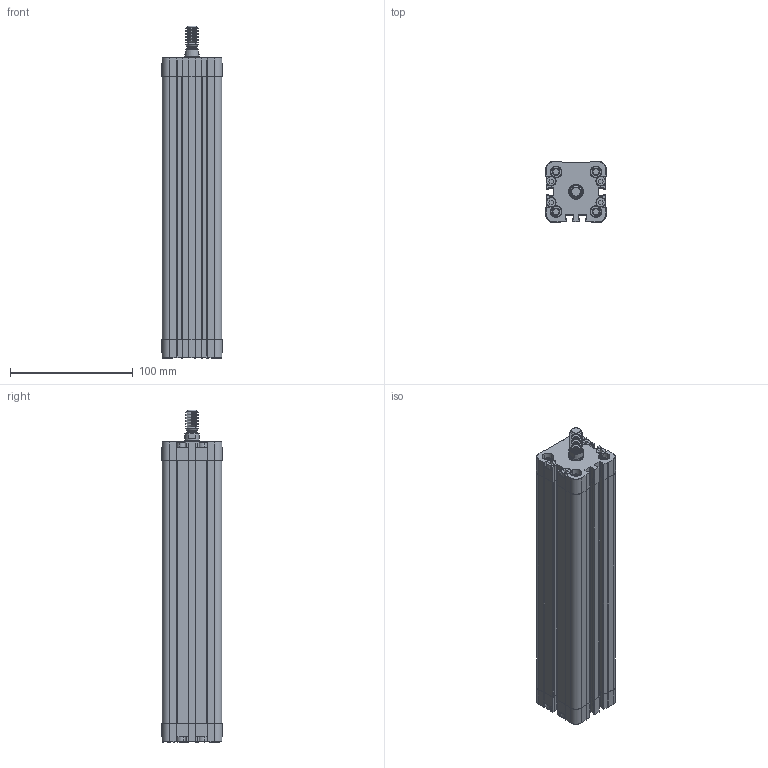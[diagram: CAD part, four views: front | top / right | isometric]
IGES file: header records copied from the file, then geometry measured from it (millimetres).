
Start section: SolidWorks IGES file using analytic representation for surfaces
Global section: file name: W:\_ALTRO\CATALOGO 3D\CYLINDERS\NSK\032\IGES\NSKI 032 M\NSKI032.0200 M.IGS; native system: SolidWorks 2009; preprocessor: SolidWorks 2009; author: utente03; date: 110606.152026; units: millimetre
Bounding box: 49.2 x 49.2 x 270 mm (x, y, z)
Surface area: 122455.8 mm2 (no closed solid volume)
Topology: 0 solids, 0 shells, 1095 faces, 10650 edges, 10634 vertices
Faces by surface type: revolution 564, bspline 531
